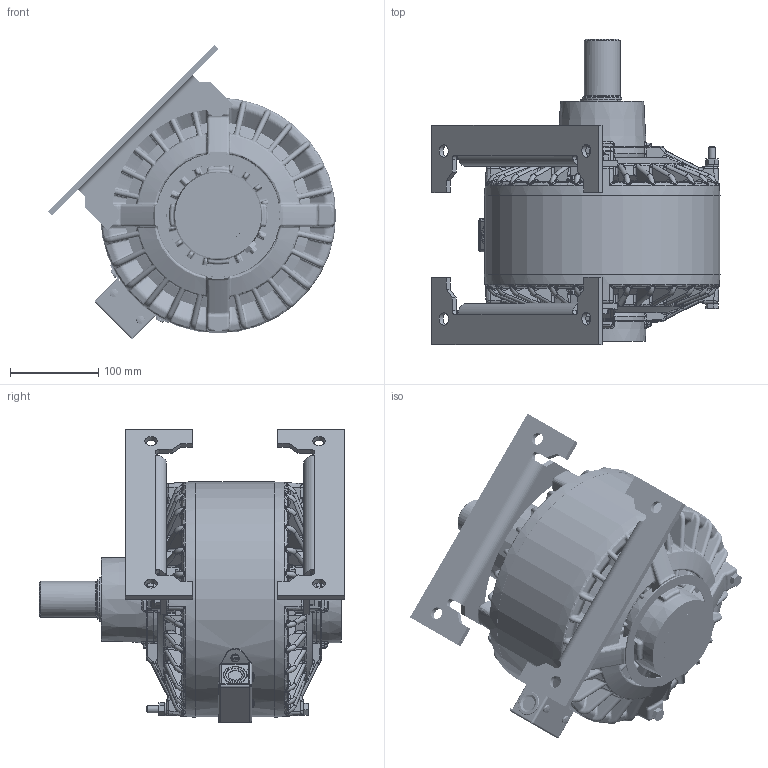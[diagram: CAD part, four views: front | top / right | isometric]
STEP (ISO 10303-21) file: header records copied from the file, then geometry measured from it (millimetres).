
FILE_DESCRIPTION(/* description */ ('STEP AP214'),/* implementation_level */ '2;1');
FILE_NAME(/* name */ '100MB90B20_stp.step',/* time_stamp */ '2026-05-13T11:39:54-05:00',/* author */ (''),/* organization */ (''),/* preprocessor_version */ 'ST-DEVELOPER v20.1',/* originating_system */ 'Autodesk Translation Framework v15.8.0.0',/* authorisation */ '');
FILE_SCHEMA (('AUTOMOTIVE_DESIGN { 1 0 10303 214 3 1 1 }'));
Products named in the file (1): 100MB90B20_asm_stp
Bounding box: 326.81 x 346.6 x 333.09 mm (x, y, z)
Volume: 5063402.7 mm3; surface area: 961061.4 mm2
Topology: 5 solids, 12 shells, 4356 faces, 10968 edges, 6331 vertices
Faces by surface type: bspline 1614, cylinder 1043, plane 853, torus 526, cone 256, sphere 64
Full cylindrical faces by diameter (mm): 3.795 x4, 4.039 x4, 6.35 x4, 7.938 x9, 9.474 x4, 9.525 x7, 10.319 x1, 12.7 x1, 13.573 x1, 14.275 x4, 17.475 x1, 19.05 x1, 22.225 x3, 31.75 x1, 41.237 x1, 42.469 x2, 43.663 x1, 45.009 x6, 45.014 x1, 51 x4, 63.5 x1, 63.551 x1, 66.9 x2, 69 x4, 71.425 x1, 75 x1, 75.006 x1, 117.475 x2, 132.588 x2, 139.7 x2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
Entity records: 201430 total; most frequent: CARTESIAN_POINT 108696, ORIENTED_EDGE 21516, DIRECTION 17251, EDGE_CURVE 10758, AXIS2_PLACEMENT_3D 7269, VERTEX_POINT 6339, EDGE_LOOP 4485, FACE_OUTER_BOUND 4356
